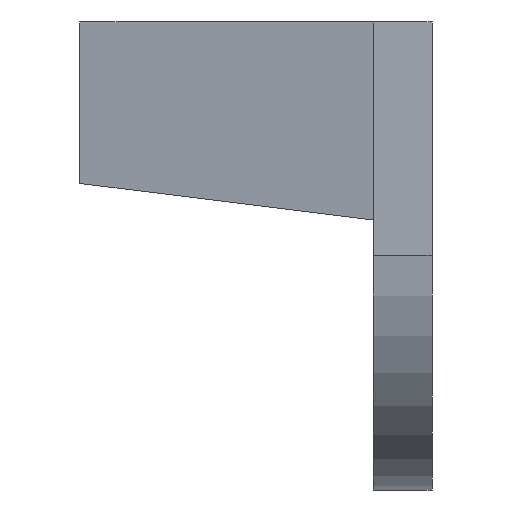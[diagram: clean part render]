
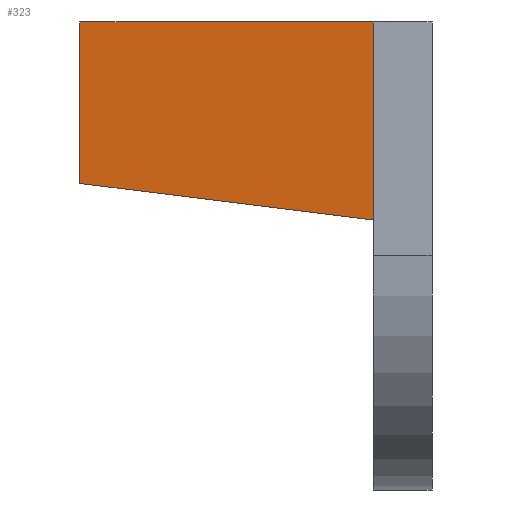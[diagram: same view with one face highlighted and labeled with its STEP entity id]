
A CAD part, left-side view. The second image highlights one B-rep face of the part: STEP entity #323.
In plain terms, the highlighted planar face has unit normal (-0.992, 0.124, 0).
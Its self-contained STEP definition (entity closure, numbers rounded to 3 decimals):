
#181 = VERTEX_POINT( '', #495 );
#189 = EDGE_CURVE( '', #413, #447, #505, .T. );
#233 = EDGE_CURVE( '', #181, #447, #553, .T. );
#283 = EDGE_CURVE( '', #413, #293, #607, .T. );
#293 = VERTEX_POINT( '', #618 );
#323 = ADVANCED_FACE( '', ( #651 ), #652, .T. );
#409 = EDGE_CURVE( '', #181, #293, #746, .T. );
#413 = VERTEX_POINT( '', #751 );
#447 = VERTEX_POINT( '', #790 );
#495 = CARTESIAN_POINT( '', ( -6.502, -20., 6. ) );
#505 = LINE( '', #845, #846 );
#553 = LINE( '', #911, #912 );
#607 = LINE( '', #980, #981 );
#618 = CARTESIAN_POINT( '', ( -4., 0., 6. ) );
#651 = FACE_OUTER_BOUND( '', #1042, .T. );
#652 = PLANE( '', #1043 );
#746 = LINE( '', #1183, #1184 );
#751 = CARTESIAN_POINT( '', ( -4., 0., -5. ) );
#790 = CARTESIAN_POINT( '', ( -6.502, -20., -7.502 ) );
#845 = CARTESIAN_POINT( '', ( -3.939, 0.485, -4.939 ) );
#846 = VECTOR( '', #1297, 1. );
#911 = CARTESIAN_POINT( '', ( -6.502, -20., -2.5 ) );
#912 = VECTOR( '', #1343, 1. );
#980 = CARTESIAN_POINT( '', ( -4., 0., -5. ) );
#981 = VECTOR( '', #1383, 1. );
#1042 = EDGE_LOOP( '', ( #1435, #1436, #1437, #1438 ) );
#1043 = AXIS2_PLACEMENT_3D( '', #1439, #1440, #1441 );
#1183 = CARTESIAN_POINT( '', ( -2.044, 15.638, 6. ) );
#1184 = VECTOR( '', #1549, 1. );
#1297 = DIRECTION( '', ( -0.123, -0.985, -0.123 ) );
#1343 = DIRECTION( '', ( 0., 0., -1. ) );
#1383 = DIRECTION( '', ( 0., 0., 1. ) );
#1435 = ORIENTED_EDGE( '', *, *, #409, .T. );
#1436 = ORIENTED_EDGE( '', *, *, #283, .F. );
#1437 = ORIENTED_EDGE( '', *, *, #189, .T. );
#1438 = ORIENTED_EDGE( '', *, *, #233, .F. );
#1439 = CARTESIAN_POINT( '', ( -4., 0., -5. ) );
#1440 = DIRECTION( '', ( -0.992, 0.124, 0. ) );
#1441 = DIRECTION( '', ( 0., 0., -1. ) );
#1549 = DIRECTION( '', ( 0.124, 0.992, 0. ) );
